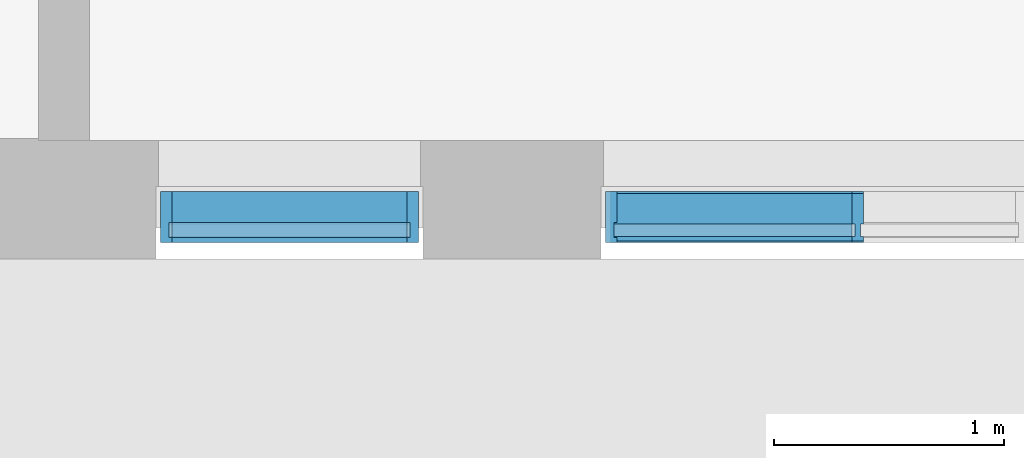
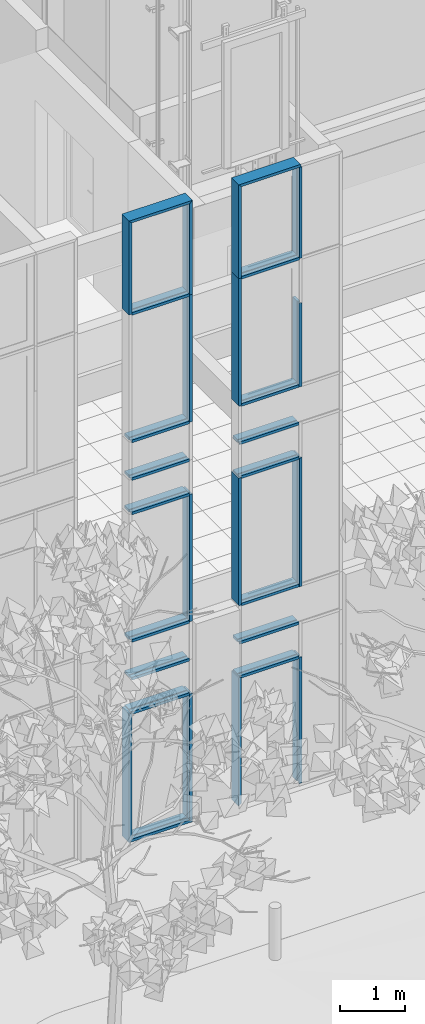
# One storey, part 2 of 246: 31 members, 2 elements without a shape of their own.
"""IFC2X3 building model written with IfcOpenShell, lengths in millimetres."""

import ifcopenshell
import ifcopenshell.guid

model = None  # the IFC model being written
_history = None  # IfcOwnerHistory: only IFC2X3 demands one
_inside = {}  # id of a spatial element -> (the spatial element, [elements in it])
_under = {}  # id of a project, library or spatial element -> (it, [spatial elements below it])
_declared = {}  # id of a project -> (the project, [libraries it declares])
_typed = {}  # id of a type object -> (the type object, [elements of that type])
_made_of = {}  # id of a material, layer set ... -> (it, [elements and type objects made of it])


def new_model(schema):
    """Start an empty IFC model of exactly this schema.

    Asked for "IFC4X3", IfcOpenShell would pick the latest addendum, in which some entities
    have other attributes; the version numbers below select the first issue.
    IFC2X3 requires an IfcOwnerHistory on every rooted entity: one is made here for all.
    """
    global model, _history
    if schema == "IFC4X3":
        model = ifcopenshell.file(schema_version=(4, 3, 0, 0))
    else:
        model = ifcopenshell.file(schema=schema)
    _inside.clear()
    _under.clear()
    _declared.clear()
    _typed.clear()
    _made_of.clear()
    _history = None
    if model.schema == "IFC2X3":
        org = make("IfcOrganization", Name="unknown")
        user = make(
            "IfcPersonAndOrganization",
            ThePerson=make("IfcPerson", FamilyName="unknown"),
            TheOrganization=org,
        )
        app = make(
            "IfcApplication",
            ApplicationDeveloper=org,
            Version="unknown",
            ApplicationFullName="unknown",
            ApplicationIdentifier="unknown",
        )
        _history = make(
            "IfcOwnerHistory",
            OwningUser=user,
            OwningApplication=app,
            ChangeAction="ADDED",
            CreationDate=0,
        )
    return model


def make(cls, **values):
    """One entity of the class cls with the attributes given. An attribute that is None is left unset."""
    return model.create_entity(
        cls, **{name: value for name, value in values.items() if value is not None}
    )


def entity(cls, *values):
    """Any entity or typed value of the class cls, its attributes in the order of the schema. None: left unset."""
    e = model.create_entity(cls)
    for i, value in enumerate(values):
        if value is not None:
            e[i] = value
    return e


def rooted(cls, **values):
    """An entity with a GlobalId (a new one), such as an element, a storey or a relation."""
    return make(cls, GlobalId=ifcopenshell.guid.new(), OwnerHistory=_history, **values)


def si_unit(unit_type, name, prefix=None):
    """IfcSIUnit, for example si_unit("LENGTHUNIT", "METRE", prefix="MILLI")."""
    return make("IfcSIUnit", UnitType=unit_type, Prefix=prefix, Name=name)


def converted_unit(unit_type, name, factor, base, dimensions=None, offset=None):
    """IfcConversionBasedUnit, such as the inch: factor (a typed value) times the base unit."""
    return make(
        "IfcConversionBasedUnit"
        if offset is None
        else "IfcConversionBasedUnitWithOffset",
        ConversionOffset=offset,
        Dimensions=None
        if dimensions is None
        else entity("IfcDimensionalExponents", *dimensions),
        UnitType=unit_type,
        Name=name,
        ConversionFactor=make(
            "IfcMeasureWithUnit", ValueComponent=factor, UnitComponent=base
        ),
    )


def derived_unit(unit_type, elements):
    """IfcDerivedUnit: a product of units, each with its exponent."""
    return make(
        "IfcDerivedUnit",
        Elements=[
            make("IfcDerivedUnitElement", Unit=unit, Exponent=power)
            for unit, power in elements
        ],
        UnitType=unit_type,
    )


def money_unit(currency):
    """IfcMonetaryUnit."""
    return make("IfcMonetaryUnit", Currency=currency)


def assignment(units):
    """IfcUnitAssignment: the units of a project."""
    return None if units is None else make("IfcUnitAssignment", Units=units)


def point(xyz):
    """IfcCartesianPoint."""
    return None if xyz is None else make("IfcCartesianPoint", Coordinates=xyz)


def direction(xyz):
    """IfcDirection."""
    return None if xyz is None else make("IfcDirection", DirectionRatios=xyz)


def frame(location, z_axis=None, x_axis=None):
    """IfcAxis2Placement3D, a coordinate frame: its origin and axes. An axis left out is left unset."""
    return make(
        "IfcAxis2Placement3D",
        Location=point(location),
        Axis=direction(z_axis),
        RefDirection=direction(x_axis),
    )


def origin_with_axes():
    """The frame at (0, 0, 0) with the z axis (0, 0, 1) and the x axis (1, 0, 0) written out."""
    return frame((0.0, 0.0, 0.0), z_axis=(0.0, 0.0, 1.0), x_axis=(1.0, 0.0, 0.0))


def place(relative_to, where):
    """IfcLocalPlacement: puts the frame where relative to a parent placement (None: the world)."""
    return make(
        "IfcLocalPlacement", PlacementRelTo=relative_to, RelativePlacement=where
    )


def context(
    kind, dimensions, precision=None, world=None, true_north=None, identifier=None
):
    """IfcGeometricRepresentationContext, for example the 3D "Model" context."""
    return make(
        "IfcGeometricRepresentationContext",
        ContextIdentifier=identifier,
        ContextType=kind,
        CoordinateSpaceDimension=dimensions,
        Precision=precision,
        WorldCoordinateSystem=world,
        TrueNorth=true_north,
    )


def subcontext(parent, identifier, kind, view, scale=None):
    """IfcGeometricRepresentationSubContext, for example "Body" below "Model"."""
    return make(
        "IfcGeometricRepresentationSubContext",
        ContextIdentifier=identifier,
        ContextType=kind,
        ParentContext=parent,
        TargetScale=scale,
        TargetView=view,
    )


def project(units=None, contexts=None):
    """IfcProject with its units and contexts."""
    return rooted(
        "IfcProject",
        Name="project",
        RepresentationContexts=contexts,
        UnitsInContext=assignment(units),
    )


def spatial(cls, under=None, at=None, **own):
    """A site, building, storey or space (cls), placed at a placement, below another one or the project."""
    s = rooted(cls, ObjectPlacement=at, **own)
    if under is not None:
        _under.setdefault(under.id(), (under, []))[1].append(s)
    return s


def faces_of(points, faces, orient=None, outer=None):
    """IfcFace entities. A face is a list of loops; a loop is a list of indices into points, from 0.

    orient and outer hold one flag for each loop. By default every Orientation is true, the
    first loop of a face is its IfcFaceOuterBound and the others are IfcFaceBound.
    """
    made = []
    for i, loops in enumerate(faces):
        bounds = []
        for j, loop in enumerate(loops):
            is_outer = j == 0 if outer is None else outer[i][j]
            bounds.append(
                make(
                    "IfcFaceOuterBound" if is_outer else "IfcFaceBound",
                    Bound=make("IfcPolyLoop", Polygon=[points[k] for k in loop]),
                    Orientation=True if orient is None else orient[i][j],
                )
            )
        made.append(make("IfcFace", Bounds=bounds))
    return made


def faceted_brep(points, faces, orient=None, outer=None, voids=None):
    """IfcFacetedBrep: a solid bounded by flat faces; with voids (closed shells), ...WithVoids."""
    shared = [point(p) for p in points]
    hull = make("IfcClosedShell", CfsFaces=faces_of(shared, faces, orient, outer))
    if voids is None:
        return make("IfcFacetedBrep", Outer=hull)
    return make(
        "IfcFacetedBrepWithVoids",
        Outer=hull,
        Voids=[
            make(cls, CfsFaces=faces_of(shared, fs, o, b)) for cls, fs, o, b in voids
        ],
    )


def shape(context_of_items, identifier, shape_type, items):
    """IfcShapeRepresentation: the items that make up one representation, for example the "Body"."""
    return make(
        "IfcShapeRepresentation",
        ContextOfItems=context_of_items,
        RepresentationIdentifier=identifier,
        RepresentationType=shape_type,
        Items=items,
    )


def source(mapping_origin, context_of_items, identifier, shape_type, items):
    """IfcRepresentationMap: a shape defined once, which mapped items show again and again."""
    return make(
        "IfcRepresentationMap",
        MappingOrigin=mapping_origin,
        MappedRepresentation=shape(context_of_items, identifier, shape_type, items),
    )


def transform(
    local_origin,
    x_axis=None,
    y_axis=None,
    z_axis=None,
    scale=None,
    scale2=None,
    scale3=None,
    uniform=True,
):
    """IfcCartesianTransformationOperator3D, or its non-uniform kind. x_axis, y_axis, z_axis: its Axis1, 2, 3."""
    if uniform:
        return make(
            "IfcCartesianTransformationOperator3D",
            Axis1=direction(x_axis),
            Axis2=direction(y_axis),
            LocalOrigin=point(local_origin),
            Scale=scale,
            Axis3=direction(z_axis),
        )
    return make(
        "IfcCartesianTransformationOperator3DnonUniform",
        Axis1=direction(x_axis),
        Axis2=direction(y_axis),
        LocalOrigin=point(local_origin),
        Scale=scale,
        Axis3=direction(z_axis),
        Scale2=scale2,
        Scale3=scale3,
    )


def mapped(mapping_source, mapping_target):
    """IfcMappedItem: shows the shape of a source again, moved by a transform."""
    return make(
        "IfcMappedItem", MappingSource=mapping_source, MappingTarget=mapping_target
    )


def material(Name=None, Category=None):
    """IfcMaterial."""
    return make("IfcMaterial", Name=Name, Category=Category)


def made_of(thing, what):
    """Note that an element or type object is made of a material, layer set ...; save() writes the relation."""
    if what is not None:
        _made_of.setdefault(what.id(), (what, []))[1].append(thing)
    return thing


def type_object(cls, material=None, **own):
    """A type object (cls), such as IfcWallType, which elements share."""
    return made_of(rooted(cls, **own), material)


def element(
    cls,
    number,
    at=None,
    inside=None,
    cuts=None,
    type_object=None,
    material=None,
    context=None,
    identifier="Body",
    shape_type=None,
    held_by="IfcProductDefinitionShape",
    body=None,
    shapes=None,
    **own,
):
    """One element of the class cls, such as IfcWall. Its Tag is "e" and its number.

    at: its placement. inside: the storey or other place that contains it. cuts: it is an
    opening in that element (IfcRelVoidsElement). A single representation is given by context,
    identifier, shape_type and body (its items); several are given by shapes. held_by: the class
    of the entity that holds the representations. save() writes the other relations.
    """
    e = rooted(cls, Tag="e%d" % number, ObjectPlacement=at, **own)
    if body is not None:
        shapes = [shape(context, identifier, shape_type, body)]
    if shapes is not None:
        e.Representation = make(held_by, Representations=shapes)
    if inside is not None:
        _inside.setdefault(inside.id(), (inside, []))[1].append(e)
    if cuts is not None:
        rooted(
            "IfcRelVoidsElement", RelatingBuildingElement=cuts, RelatedOpeningElement=e
        )
    if type_object is not None:
        _typed.setdefault(type_object.id(), (type_object, []))[1].append(e)
    return made_of(e, material)


def aggregate(whole, parts):
    """IfcRelAggregates: a whole, such as a stair, and the parts it consists of."""
    return rooted("IfcRelAggregates", RelatingObject=whole, RelatedObjects=parts)


def save(model, path):
    """Write the relations noted so far, then the file.

    IfcRelAggregates (storeys below a building ...), IfcRelContainedInSpatialStructure (elements
    in a storey), IfcRelDefinesByType, IfcRelAssociatesMaterial and IfcRelDeclares: one each for
    every whole, place, type object, material and project.
    """
    for whole, parts in _under.values():
        aggregate(whole, parts)
    for where, things in _inside.values():
        rooted(
            "IfcRelContainedInSpatialStructure",
            RelatedElements=things,
            RelatingStructure=where,
        )
    for kind, things in _typed.values():
        rooted("IfcRelDefinesByType", RelatedObjects=things, RelatingType=kind)
    for what, things in _made_of.values():
        rooted("IfcRelAssociatesMaterial", RelatedObjects=things, RelatingMaterial=what)
    for by, libraries in _declared.values():
        rooted("IfcRelDeclares", RelatingContext=by, RelatedDefinitions=libraries)
    model.write(path)


model = new_model("IFC2X3")

# Units and contexts
model_context = context("Model", 3, precision=0.01, world=origin_with_axes(), true_north=direction((0.0, 1.0)))
body_context = subcontext(model_context, "Body", "Model", "MODEL_VIEW")
ifc_project = project(units=[si_unit("LENGTHUNIT", "METRE", prefix="MILLI"), si_unit("AREAUNIT", "SQUARE_METRE"), si_unit("VOLUMEUNIT", "CUBIC_METRE"), converted_unit("PLANEANGLEUNIT", "DEGREE", entity("IfcPlaneAngleMeasure", 0.0174532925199), si_unit("PLANEANGLEUNIT", "RADIAN"), dimensions=[0, 0, 0, 0, 0, 0, 0]), si_unit("SOLIDANGLEUNIT", "STERADIAN"), money_unit("EUR"), converted_unit("TIMEUNIT", "Year", entity("IfcTimeMeasure", 31556926.0), si_unit("TIMEUNIT", "SECOND"), dimensions=[0, 0, 1, 0, 0, 0, 0]), si_unit("MASSUNIT", "GRAM", prefix="KILO"), si_unit("THERMODYNAMICTEMPERATUREUNIT", "DEGREE_CELSIUS"), si_unit("LUMINOUSINTENSITYUNIT", "LUMEN"), si_unit("ENERGYUNIT", "JOULE", prefix="MEGA"), derived_unit("THERMALCONDUCTANCEUNIT", [(si_unit("POWERUNIT", "WATT"), 1), (si_unit("LENGTHUNIT", "METRE"), -1), (si_unit("THERMODYNAMICTEMPERATUREUNIT", "KELVIN"), -1)]), derived_unit("SPECIFICHEATCAPACITYUNIT", [(si_unit("ENERGYUNIT", "JOULE"), 1), (si_unit("MASSUNIT", "GRAM", prefix="KILO"), -1), (si_unit("THERMODYNAMICTEMPERATUREUNIT", "KELVIN"), -1)]), derived_unit("MASSDENSITYUNIT", [(si_unit("MASSUNIT", "GRAM", prefix="KILO"), 1), (si_unit("VOLUMEUNIT", "CUBIC_METRE"), -1)])], contexts=[model_context])

# Site, building, storey
site_placement = place(None, origin_with_axes())
site = spatial("IfcSite", under=ifc_project, at=site_placement, Name="L.Koidula tn 11b", CompositionType="ELEMENT")
building_placement = place(site_placement, origin_with_axes())
building = spatial("IfcBuilding", under=site, at=building_placement, Name="Rakvere Riigigümnaasium", CompositionType="ELEMENT")
storey_placement = place(building_placement, origin_with_axes())
storey = spatial("IfcBuildingStorey", under=building, at=storey_placement, Name="1.korrus 0,00", CompositionType="ELEMENT", Elevation=0.0)

# Curtain wall, members
curtain_wall_type = type_object("IfcCurtainWallType", Name="Curtain Wall Type", PredefinedType="NOTDEFINED")
curtain_wall_1_placement = place(storey_placement, frame((40619.71659, 5111.45334637, -1.61944636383e-05), z_axis=(0.0, 0.0, 1.0), x_axis=(1.0, 0.0, 0.0)))
curtain_wall_1 = element("IfcCurtainWall", 1, at=curtain_wall_1_placement, inside=storey, type_object=curtain_wall_type, Name="KLF-05-1D")
ifc_material = material(Name="Alumiiniumprofiil (RAL 7021)")
member_type_1 = type_object("IfcMemberType", Name="Boundary Frame 50 x 222", PredefinedType="MULLION")
shared_shape_1 = source(origin_with_axes(), body_context, "Body", "Brep", [
    faceted_brep([(37.0, -32.5, 2375.00000025), (37.0, 32.5, 2375.00000025), (50.0, 32.5, 2375.00000025), (50.0, 53.0, 2375.00000025), (0.0, 53.0, 2375.00000025), (0.0, -169.0, 2375.00000025), (50.0, -169.0, 2375.00000025), (50.0, -32.5, 2375.00000025), (37.0, -32.5, -2.4712543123e-07), (37.0, 32.5, -2.4712543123e-07), (50.0, 32.5, -2.47125653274e-07), (50.0, 53.0, -2.47125653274e-07), (0.0, 53.0, -2.47125653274e-07), (0.0, -169.0, -2.47125653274e-07), (50.0, -169.0, -2.47125653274e-07), (50.0, -32.5, -2.47125653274e-07)], [[[0, 1, 2, 3, 4, 5, 6, 7]], [[1, 0, 8, 9]], [[10, 2, 1, 9]], [[2, 10, 11, 3]], [[12, 4, 3, 11]], [[13, 5, 4, 12]], [[14, 6, 5, 13]], [[15, 7, 6, 14]], [[0, 7, 15, 8]], [[8, 15, 14, 13, 12, 11, 10, 9]]]),
])
member_1_placement = place(curtain_wall_1_placement, frame((560.000157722, 0.0, 7465.0), z_axis=(3.53617792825e-08, 0.0, 1.0), x_axis=(-1.0, 0.0, 3.53617792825e-08)))
member_1 = element("IfcMember", 2, at=member_1_placement, type_object=member_type_1, material=ifc_material, Name="KLF-05-4C-Profiilid", ObjectType="MULLION", context=body_context, shape_type="MappedRepresentation", body=[
    mapped(shared_shape_1, transform((0.0, 0.0, 0.0))),
])
member_2_placement = place(curtain_wall_1_placement, frame((560.000157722, 0.0, 3745.0), z_axis=(0.0, 0.0, 1.0), x_axis=(-1.0, 0.0, 0.0)))
member_2 = element("IfcMember", 3, at=member_2_placement, type_object=member_type_1, material=ifc_material, Name="KLF-05-1C-Profiilid", ObjectType="MULLION", context=body_context, shape_type="MappedRepresentation", body=[
    mapped(shared_shape_1, transform((0.0, 0.0, 0.0))),
])

curtain_wall_2_placement = place(storey_placement, frame((42948.5002114, 5111.45334637, -8.09717250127e-06), z_axis=(0.0, 0.0, 1.0), x_axis=(1.0, 0.0, 0.0)))
curtain_wall_2 = element("IfcCurtainWall", 4, at=curtain_wall_2_placement, inside=storey, type_object=curtain_wall_type, Name="KLF-05-2A")
shared_shape_2 = source(origin_with_axes(), body_context, "Body", "Brep", [
    faceted_brep([(-37.0, -32.5, 2375.0), (-50.0, -32.5, 2375.0), (-50.0, -169.0, 2375.0), (0.0, -169.0, 2375.0), (0.0, 53.0, 2375.0), (-50.0, 53.0, 2375.0), (-50.0, 32.5, 2375.0), (-37.0, 32.5, 2375.0), (-37.0, -32.5, 0.0), (-50.0, -32.5, 0.0), (-50.0, -169.0, 0.0), (0.0, -169.0, 0.0), (0.0, 53.0, 0.0), (-50.0, 53.0, 0.0), (-50.0, 32.5, 0.0), (-37.0, 32.5, 0.0)], [[[0, 1, 2, 3, 4, 5, 6, 7]], [[0, 8, 9, 1]], [[9, 10, 2, 1]], [[10, 11, 3, 2]], [[11, 12, 4, 3]], [[12, 13, 5, 4]], [[6, 5, 13, 14]], [[14, 15, 7, 6]], [[7, 15, 8, 0]], [[8, 15, 14, 13, 12, 11, 10, 9]]]),
])
member_3_placement = place(curtain_wall_2_placement, frame((-954.000087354, 0.0, 3745.0), z_axis=(0.0, 0.0, 1.0), x_axis=(-1.0, 0.0, 0.0)))
member_3 = element("IfcMember", 5, at=member_3_placement, type_object=member_type_1, material=ifc_material, Name="KLF-05-6A-Profiilid", ObjectType="MULLION", context=body_context, shape_type="MappedRepresentation", body=[
    mapped(shared_shape_2, transform((0.0, 0.0, 0.0))),
])
member_4_placement = place(curtain_wall_2_placement, frame((-954.000087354, 0.0, 7465.0), z_axis=(0.0, 0.0, 1.0), x_axis=(-1.0, 0.0, 0.0)))
member_4 = element("IfcMember", 6, at=member_4_placement, type_object=member_type_1, material=ifc_material, Name="KLF-05-3A-Profiilid", ObjectType="MULLION", context=body_context, shape_type="MappedRepresentation", body=[
    mapped(shared_shape_2, transform((0.0, 0.0, 0.0))),
])
member_type_2 = type_object("IfcMemberType", Name="50 x 208", PredefinedType="MULLION")
shared_shape_3 = source(origin_with_axes(), body_context, "Body", "Brep", [
    faceted_brep([(-12.0, -27.0, 1050.00011426), (-25.0, -27.0, 1050.00011426), (-25.0, -160.0, 1050.00011426), (25.0, -160.0, 1050.00011426), (25.0, -27.0, 1050.00011426), (12.0, -27.0, 1050.00011426), (12.0, 27.0, 1050.00011426), (25.0, 27.0, 1050.00011426), (25.0, 48.0, 1050.00011426), (-25.0, 48.0, 1050.00011426), (-25.0, 27.0, 1050.00011426), (-12.0, 27.0, 1050.00011426), (-12.0, -27.0, 0.0), (-25.0, -27.0, 0.0), (-25.0, -160.0, 0.0), (25.0, -160.0, 0.0), (25.0, -27.0, 0.0), (12.0, -27.0, 0.0), (12.0, 27.0, 0.0), (25.0, 27.0, 0.0), (25.0, 48.0, 0.0), (-25.0, 48.0, 0.0), (-25.0, 27.0, 0.0), (-12.0, 27.0, 0.0)], [[[0, 1, 2, 3, 4, 5, 6, 7, 8, 9, 10, 11]], [[1, 0, 12, 13]], [[1, 13, 14, 2]], [[3, 2, 14, 15]], [[4, 3, 15, 16]], [[4, 16, 17, 5]], [[5, 17, 18, 6]], [[7, 6, 18, 19]], [[19, 20, 8, 7]], [[9, 8, 20, 21]], [[22, 10, 9, 21]], [[11, 10, 22, 23]], [[0, 11, 23, 12]], [[23, 22, 21, 20, 19, 18, 17, 16, 15, 14, 13, 12]]]),
])
member_5_placement = place(curtain_wall_2_placement, frame((-934.000201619, 0.0, 2400.0), z_axis=(1.0, 0.0, 0.0), x_axis=(0.0, 0.0, 1.0)))
member_5 = element("IfcMember", 7, at=member_5_placement, type_object=member_type_2, material=ifc_material, Name="KLF-40", ObjectType="MULLION", context=body_context, shape_type="MappedRepresentation", body=[
    mapped(shared_shape_3, transform((0.0, 0.0, 0.0))),
])
member_6_placement = place(curtain_wall_2_placement, frame((-934.000201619, 0.0, 3040.0), z_axis=(1.0, 0.0, 0.0), x_axis=(0.0, 0.0, 1.0)))
member_6 = element("IfcMember", 8, at=member_6_placement, type_object=member_type_2, material=ifc_material, Name="KLF-82", ObjectType="MULLION", context=body_context, shape_type="MappedRepresentation", body=[
    mapped(shared_shape_3, transform((0.0, 0.0, 0.0))),
])
member_7_placement = place(curtain_wall_2_placement, frame((-934.000201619, 0.0, 3745.0), z_axis=(1.0, 0.0, 0.0), x_axis=(0.0, 0.0, 1.0)))
member_7 = element("IfcMember", 9, at=member_7_placement, type_object=member_type_2, material=ifc_material, Name="KLF-84", ObjectType="MULLION", context=body_context, shape_type="MappedRepresentation", body=[
    mapped(shared_shape_3, transform((0.0, 0.0, 0.0))),
])
member_8_placement = place(curtain_wall_2_placement, frame((-934.000201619, 0.0, 6120.0), z_axis=(1.0, 0.0, 0.0), x_axis=(0.0, 0.0, 1.0)))
member_8 = element("IfcMember", 10, at=member_8_placement, type_object=member_type_2, material=ifc_material, Name="KLF-15", ObjectType="MULLION", context=body_context, shape_type="MappedRepresentation", body=[
    mapped(shared_shape_3, transform((0.0, 0.0, 0.0))),
])
member_9_placement = place(curtain_wall_2_placement, frame((-934.000201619, 0.0, 6760.0), z_axis=(1.0, 0.0, 0.0), x_axis=(0.0, 0.0, 1.0)))
member_9 = element("IfcMember", 11, at=member_9_placement, type_object=member_type_2, material=ifc_material, Name="KLF-17", ObjectType="MULLION", context=body_context, shape_type="MappedRepresentation", body=[
    mapped(shared_shape_3, transform((0.0, 0.0, 0.0))),
])
member_10_placement = place(curtain_wall_2_placement, frame((-934.000201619, 0.0, 7465.0), z_axis=(1.0, 0.0, 0.0), x_axis=(0.0, 0.0, 1.0)))
member_10 = element("IfcMember", 12, at=member_10_placement, type_object=member_type_2, material=ifc_material, Name="KLF-50", ObjectType="MULLION", context=body_context, shape_type="MappedRepresentation", body=[
    mapped(shared_shape_3, transform((0.0, 0.0, 0.0))),
])

# Member
shared_shape_4 = source(origin_with_axes(), body_context, "Body", "Brep", [
    faceted_brep([(37.0, -32.5, 1712.99983191), (37.0, 32.5, 1712.99983191), (50.0, 32.5, 1699.99983191), (50.0, 53.0, 1699.99983191), (0.0, 53.0, 1749.99983191), (0.0, -169.0, 1749.99983191), (50.0, -169.0, 1699.99983191), (50.0, -32.5, 1699.99983191), (37.0, -32.5, -2.47125875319e-07), (37.0, 32.5, -2.47125875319e-07), (50.0, 32.5, -2.47125764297e-07), (50.0, 53.0, -2.47125764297e-07), (0.0, 53.0, -2.47125764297e-07), (0.0, -169.0, -2.47125764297e-07), (50.0, -169.0, -2.47125764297e-07), (50.0, -32.5, -2.47125764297e-07)], [[[0, 1, 2, 3, 4, 5, 6, 7]], [[1, 0, 8, 9]], [[10, 2, 1, 9]], [[2, 10, 11, 3]], [[12, 4, 3, 11]], [[13, 5, 4, 12]], [[14, 6, 5, 13]], [[15, 7, 6, 14]], [[0, 7, 15, 8]], [[8, 15, 14, 13, 12, 11, 10, 9]]]),
])
member_11_placement = place(curtain_wall_1_placement, frame((560.000241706, 0.0, 9840.0), z_axis=(0.0, 0.0, 1.0), x_axis=(-1.0, 0.0, 0.0)))
member_11 = element("IfcMember", 13, at=member_11_placement, type_object=member_type_1, material=ifc_material, Name="KLF-05-5C-Profiilid", ObjectType="MULLION", context=body_context, shape_type="MappedRepresentation", body=[
    mapped(shared_shape_4, transform((0.0, 0.0, 0.0))),
])

shared_shape_5 = source(origin_with_axes(), body_context, "Body", "Brep", [
    faceted_brep([(37.0, -32.5, 2400.0), (37.0, 32.5, 2400.0), (50.0, 32.5, 2400.0), (50.0, 53.0, 2400.0), (0.0, 53.0, 2400.0), (0.0, -169.0, 2400.0), (50.0, -169.0, 2400.0), (50.0, -32.5, 2400.0), (37.0, -32.5, 37.0), (37.0, 32.5, 37.0), (50.0, 32.5, 50.0), (50.0, 53.0, 50.0), (0.0, 53.0, 0.0), (0.0, -169.0, 0.0), (50.0, -169.0, 50.0), (50.0, -32.5, 50.0)], [[[0, 1, 2, 3, 4, 5, 6, 7]], [[1, 0, 8, 9]], [[10, 2, 1, 9]], [[2, 10, 11, 3]], [[4, 3, 11, 12]], [[5, 4, 12, 13]], [[6, 5, 13, 14]], [[15, 7, 6, 14]], [[0, 7, 15, 8]], [[8, 15, 14, 13, 12, 11, 10, 9]]]),
])
member_12_placement = place(curtain_wall_1_placement, frame((560.000157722, 0.0, 0.0), z_axis=(0.0, 0.0, 1.0), x_axis=(-1.0, 0.0, 0.0)))
member_12 = element("IfcMember", 14, at=member_12_placement, type_object=member_type_1, material=ifc_material, Name="KLF-05-8C-Profiilid", ObjectType="MULLION", context=body_context, shape_type="MappedRepresentation", body=[
    mapped(shared_shape_5, transform((0.0, 0.0, 0.0))),
])

member_type_3 = type_object("IfcMemberType", Name="Mullion Frame 50 x 222", PredefinedType="MULLION")
shared_shape_6 = source(origin_with_axes(), body_context, "Body", "Brep", [
    faceted_brep([(-12.0, -32.5, 1699.99983191), (-25.0, -32.5, 1699.99983191), (-25.0, -169.0, 1699.99983191), (25.0, -169.0, 1699.99983191), (25.0, -32.5, 1699.99983191), (12.0, -32.5, 1699.99983191), (12.0, 32.5, 1699.99983191), (25.0, 32.5, 1699.99983191), (25.0, 53.0, 1699.99983191), (-25.0, 53.0, 1699.99983191), (-25.0, 32.5, 1699.99983191), (-12.0, 32.5, 1699.99983191), (-12.0, -32.5, 0.0), (-25.0, -32.5, 0.0), (-25.0, -169.0, 0.0), (25.0, -169.0, 0.0), (25.0, -32.5, 0.0), (12.0, -32.5, 0.0), (12.0, 32.5, 0.0), (25.0, 32.5, 0.0), (25.0, 53.0, 0.0), (-25.0, 53.0, 0.0), (-25.0, 32.5, 0.0), (-12.0, 32.5, 0.0)], [[[0, 1, 2, 3, 4, 5, 6, 7, 8, 9, 10, 11]], [[1, 0, 12, 13]], [[1, 13, 14, 2]], [[3, 2, 14, 15]], [[4, 3, 15, 16]], [[4, 16, 17, 5]], [[5, 17, 18, 6]], [[7, 6, 18, 19]], [[19, 20, 8, 7]], [[9, 8, 20, 21]], [[22, 10, 9, 21]], [[11, 10, 22, 23]], [[0, 11, 23, 12]], [[23, 22, 21, 20, 19, 18, 17, 16, 15, 14, 13, 12]]]),
])
member_13_placement = place(curtain_wall_2_placement, frame((140.999912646, 0.0, 9840.0), z_axis=(0.0, 0.0, 1.0), x_axis=(-1.0, 0.0, 0.0)))
member_13 = element("IfcMember", 15, at=member_13_placement, type_object=member_type_3, material=ifc_material, Name="KLF-05-2A-Profiilid", ObjectType="MULLION", context=body_context, shape_type="MappedRepresentation", body=[
    mapped(shared_shape_6, transform((0.0, 0.0, 0.0))),
])

shared_shape_7 = source(origin_with_axes(), body_context, "Body", "Brep", [
    faceted_brep([(-37.0, -32.5, 2400.0), (-50.0, -32.5, 2400.0), (-50.0, -169.0, 2400.0), (0.0, -169.0, 2400.0), (0.0, 53.0, 2400.0), (-50.0, 53.0, 2400.0), (-50.0, 32.5, 2400.0), (-37.0, 32.5, 2400.0), (-37.0, -32.5, 37.0), (-50.0, -32.5, 50.0), (-50.0, -169.0, 50.0), (0.0, -169.0, 0.0), (0.0, 53.0, 0.0), (-50.0, 53.0, 50.0), (-50.0, 32.5, 50.0), (-37.0, 32.5, 37.0)], [[[0, 1, 2, 3, 4, 5, 6, 7]], [[0, 8, 9, 1]], [[9, 10, 2, 1]], [[2, 10, 11, 3]], [[3, 11, 12, 4]], [[4, 12, 13, 5]], [[6, 5, 13, 14]], [[14, 15, 7, 6]], [[7, 15, 8, 0]], [[8, 15, 14, 13, 12, 11, 10, 9]]]),
])
member_14_placement = place(curtain_wall_2_placement, frame((-954.000087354, 0.0, 0.0), z_axis=(0.0, 0.0, 1.0), x_axis=(-1.0, 0.0, 0.0)))
member_14 = element("IfcMember", 16, at=member_14_placement, type_object=member_type_1, material=ifc_material, Name="KLF-05-9A-Profiilid", ObjectType="MULLION", context=body_context, shape_type="MappedRepresentation", body=[
    mapped(shared_shape_7, transform((0.0, 0.0, 0.0))),
])

shared_shape_8 = source(origin_with_axes(), body_context, "Body", "Brep", [
    faceted_brep([(-37.0, -32.5, 1712.99983191), (-50.0, -32.5, 1699.99983191), (-50.0, -169.0, 1699.99983191), (0.0, -169.0, 1749.99983191), (0.0, 53.0, 1749.99983191), (-50.0, 53.0, 1699.99983191), (-50.0, 32.5, 1699.99983191), (-37.0, 32.5, 1712.99983191), (-37.0, -32.5, 0.0), (-50.0, -32.5, 0.0), (-50.0, -169.0, 0.0), (0.0, -169.0, 0.0), (0.0, 53.0, 0.0), (-50.0, 53.0, 0.0), (-50.0, 32.5, 0.0), (-37.0, 32.5, 0.0)], [[[0, 1, 2, 3, 4, 5, 6, 7]], [[0, 8, 9, 1]], [[9, 10, 2, 1]], [[10, 11, 3, 2]], [[11, 12, 4, 3]], [[12, 13, 5, 4]], [[6, 5, 13, 14]], [[14, 15, 7, 6]], [[7, 15, 8, 0]], [[8, 15, 14, 13, 12, 11, 10, 9]]]),
])
member_15_placement = place(curtain_wall_2_placement, frame((-954.000087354, 0.0, 9840.0), z_axis=(0.0, 0.0, 1.0), x_axis=(-1.0, 0.0, 0.0)))
member_15 = element("IfcMember", 17, at=member_15_placement, type_object=member_type_1, material=ifc_material, Name="KLF-05-2A-Profiilid", ObjectType="MULLION", context=body_context, shape_type="MappedRepresentation", body=[
    mapped(shared_shape_8, transform((0.0, 0.0, 0.0))),
])

member_type_4 = type_object("IfcMemberType", Name="Transom Frame 50 x 222", PredefinedType="MULLION")
shared_shape_9 = source(origin_with_axes(), body_context, "Body", "Brep", [
    faceted_brep([(-12.0, -32.5, 1070.00039943), (-25.0, -32.5, 1070.00039943), (-25.0, -169.0, 1070.00039943), (25.0, -169.0, 1070.00039943), (25.0, -32.5, 1070.00039943), (12.0, -32.5, 1070.00039943), (12.0, 32.5, 1070.00039943), (25.0, 32.5, 1070.00039943), (25.0, 53.0, 1070.00039943), (-25.0, 53.0, 1070.00039943), (-25.0, 32.5, 1070.00039943), (-12.0, 32.5, 1070.00039943), (-12.0, -32.5, 50.0000015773), (-25.0, -32.5, 50.0000015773), (-25.0, -169.0, 50.0000082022), (25.0, -169.0, 50.0000082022), (25.0, -32.5, 50.0000015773), (12.0, -32.5, 50.0000015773), (12.0, 32.5, 49.9999984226), (25.0, 32.5, 49.9999984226), (25.0, 53.0, 49.9999974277), (-25.0, 53.0, 49.9999974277), (-25.0, 32.5, 49.9999984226), (-12.0, 32.5, 49.9999984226)], [[[0, 1, 2, 3, 4, 5, 6, 7, 8, 9, 10, 11]], [[1, 0, 12, 13]], [[1, 13, 14, 2]], [[2, 14, 15, 3]], [[4, 3, 15, 16]], [[4, 16, 17, 5]], [[5, 17, 18, 6]], [[7, 6, 18, 19]], [[19, 20, 8, 7]], [[8, 20, 21, 9]], [[22, 10, 9, 21]], [[11, 10, 22, 23]], [[0, 11, 23, 12]], [[23, 22, 21, 20, 19, 18, 17, 16, 15, 14, 13, 12]]]),
])
member_16_placement = place(curtain_wall_1_placement, frame((-560.000157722, 0.0, 9840.0), z_axis=(1.0, 0.0, 0.0), x_axis=(0.0, 0.0, 1.0)))
member_16 = element("IfcMember", 18, at=member_16_placement, type_object=member_type_4, material=ifc_material, Name="KLF-05-1C-Profiilid", ObjectType="MULLION", context=body_context, shape_type="MappedRepresentation", body=[
    mapped(shared_shape_9, transform((0.0, 0.0, 0.0))),
])

member_17_placement = place(curtain_wall_1_placement, frame((-560.000157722, 0.0, 7465.0), z_axis=(1.0, 0.0, 0.0), x_axis=(0.0, 0.0, 1.0)))
member_17 = element("IfcMember", 19, at=member_17_placement, type_object=member_type_4, material=ifc_material, Name="KLF-05-2C-Profiilid", ObjectType="MULLION", context=body_context, shape_type="MappedRepresentation", body=[
    mapped(shared_shape_9, transform((0.0, 0.0, 0.0))),
])

member_18_placement = place(curtain_wall_1_placement, frame((-560.000157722, 0.0, 6760.0), z_axis=(1.0, 0.0, 0.0), x_axis=(0.0, 0.0, 1.0)))
member_18 = element("IfcMember", 20, at=member_18_placement, type_object=member_type_4, material=ifc_material, Name="KLF-05-3C-Profiilid", ObjectType="MULLION", context=body_context, shape_type="MappedRepresentation", body=[
    mapped(shared_shape_9, transform((0.0, 0.0, 0.0))),
])

member_19_placement = place(curtain_wall_1_placement, frame((-560.000157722, 0.0, 6120.0), z_axis=(1.0, 0.0, 0.0), x_axis=(0.0, 0.0, 1.0)))
member_19 = element("IfcMember", 21, at=member_19_placement, type_object=member_type_4, material=ifc_material, Name="KLF-05-4C-Profiilid", ObjectType="MULLION", context=body_context, shape_type="MappedRepresentation", body=[
    mapped(shared_shape_9, transform((0.0, 0.0, 0.0))),
])

member_20_placement = place(curtain_wall_1_placement, frame((-560.000157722, 0.0, 3745.0), z_axis=(1.0, 0.0, 0.0), x_axis=(0.0, 0.0, 1.0)))
member_20 = element("IfcMember", 22, at=member_20_placement, type_object=member_type_4, material=ifc_material, Name="KLF-05-3C-Profiilid", ObjectType="MULLION", context=body_context, shape_type="MappedRepresentation", body=[
    mapped(shared_shape_9, transform((0.0, 0.0, 0.0))),
])

member_21_placement = place(curtain_wall_1_placement, frame((-560.000157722, 0.0, 3040.0), z_axis=(1.0, 0.0, 0.0), x_axis=(0.0, 0.0, 1.0)))
member_21 = element("IfcMember", 23, at=member_21_placement, type_object=member_type_4, material=ifc_material, Name="KLF-05-4C-Profiilid", ObjectType="MULLION", context=body_context, shape_type="MappedRepresentation", body=[
    mapped(shared_shape_9, transform((0.0, 0.0, 0.0))),
])

member_22_placement = place(curtain_wall_1_placement, frame((-560.000157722, 0.0, 2400.0), z_axis=(1.0, 0.0, 0.0), x_axis=(0.0, 0.0, 1.0)))
member_22 = element("IfcMember", 24, at=member_22_placement, type_object=member_type_4, material=ifc_material, Name="KLF-05-5C-Profiilid", ObjectType="MULLION", context=body_context, shape_type="MappedRepresentation", body=[
    mapped(shared_shape_9, transform((0.0, 0.0, 0.0))),
])

shared_shape_10 = source(origin_with_axes(), body_context, "Body", "Brep", [
    faceted_brep([(-12.0, -27.0, 2400.00026018), (-25.0, -27.0, 2400.00026018), (-25.0, -160.0, 2400.00026018), (25.0, -160.0, 2400.00026018), (25.0, -27.0, 2400.00026018), (12.0, -27.0, 2400.00026018), (12.0, 27.0, 2400.00026018), (25.0, 27.0, 2400.00026018), (25.0, 48.0, 2400.00026018), (-25.0, 48.0, 2400.00026018), (-25.0, 27.0, 2400.00026018), (-12.0, 27.0, 2400.00026018), (-12.0, -27.0, 50.0), (-25.0, -27.0, 50.0), (-25.0, -160.0, 50.0), (25.0, -160.0, 50.0), (25.0, -27.0, 50.0), (12.0, -27.0, 50.0), (12.0, 27.0, 50.0), (25.0, 27.0, 50.0), (25.0, 48.0, 50.0), (-25.0, 48.0, 50.0), (-25.0, 27.0, 50.0), (-12.0, 27.0, 50.0)], [[[0, 1, 2, 3, 4, 5, 6, 7, 8, 9, 10, 11]], [[1, 0, 12, 13]], [[1, 13, 14, 2]], [[2, 14, 15, 3]], [[4, 3, 15, 16]], [[4, 16, 17, 5]], [[5, 17, 18, 6]], [[7, 6, 18, 19]], [[19, 20, 8, 7]], [[8, 20, 21, 9]], [[22, 10, 9, 21]], [[11, 10, 22, 23]], [[0, 11, 23, 12]], [[23, 22, 21, 20, 19, 18, 17, 16, 15, 14, 13, 12]]]),
])
member_23_placement = place(curtain_wall_2_placement, frame((140.999912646, 0.0, 0.0), z_axis=(0.0, 0.0, 1.0), x_axis=(-1.0, 0.0, 0.0)))
member_23 = element("IfcMember", 25, at=member_23_placement, type_object=member_type_2, material=ifc_material, Name="KLF-24", ObjectType="MULLION", context=body_context, shape_type="MappedRepresentation", body=[
    mapped(shared_shape_10, transform((0.0, 0.0, 0.0))),
])

shared_shape_11 = source(origin_with_axes(), body_context, "Body", "Brep", [
    faceted_brep([(-12.0, -27.0, 1535.0), (-25.0, -27.0, 1535.0), (-25.0, -160.0, 1535.0), (25.0, -160.0, 1535.0), (25.0, -27.0, 1535.0), (12.0, -27.0, 1535.0), (12.0, 27.0, 1535.0), (25.0, 27.0, 1535.0), (25.0, 48.0, 1535.0), (-25.0, 48.0, 1535.0), (-25.0, 27.0, 1535.0), (-12.0, 27.0, 1535.0), (-12.0, -27.0, -25.0), (-25.0, -27.0, -25.0), (-25.0, -160.0, -25.0), (25.0, -160.0, -25.0), (25.0, -27.0, -25.0), (12.0, -27.0, -25.0), (12.0, 27.0, -25.0), (25.0, 27.0, -25.0), (25.0, 48.0, -25.0), (-25.0, 48.0, -25.0), (-25.0, 27.0, -25.0), (-12.0, 27.0, -25.0)], [[[0, 1, 2, 3, 4, 5, 6, 7, 8, 9, 10, 11]], [[1, 0, 12, 13]], [[1, 13, 14, 2]], [[3, 2, 14, 15]], [[4, 3, 15, 16]], [[4, 16, 17, 5]], [[5, 17, 18, 6]], [[7, 6, 18, 19]], [[19, 20, 8, 7]], [[9, 8, 20, 21]], [[22, 10, 9, 21]], [[11, 10, 22, 23]], [[0, 11, 23, 12]], [[23, 22, 21, 20, 19, 18, 17, 16, 15, 14, 13, 12]]]),
])
member_24_placement = place(curtain_wall_2_placement, frame((140.999912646, 0.0, 7465.0), z_axis=(0.0, 0.0, 1.0), x_axis=(-1.0, 0.0, 0.0)))
member_24 = element("IfcMember", 26, at=member_24_placement, type_object=member_type_2, material=ifc_material, Name="KLF-25", ObjectType="MULLION", context=body_context, shape_type="MappedRepresentation", body=[
    mapped(shared_shape_11, transform((0.0, 0.0, 0.0))),
])

member_type_5 = type_object("IfcMemberType", Name="50 x 222", PredefinedType="MULLION")
shared_shape_12 = source(origin_with_axes(), body_context, "Body", "Brep", [
    faceted_brep([(-12.0, -27.0, 2375.0), (-25.0, -27.0, 2375.0), (-25.0, -169.0, 2375.0), (25.0, -169.0, 2375.0), (25.0, -27.0, 2375.0), (12.0, -27.0, 2375.0), (12.0, 27.0, 2375.0), (25.0, 27.0, 2375.0), (25.0, 53.0, 2375.0), (-25.0, 53.0, 2375.0), (-25.0, 27.0, 2375.0), (-12.0, 27.0, 2375.0), (-12.0, -27.0, -25.0), (-25.0, -27.0, -25.0), (-25.0, -169.0, -25.0), (25.0, -169.0, -25.0), (25.0, -27.0, -25.0), (12.0, -27.0, -25.0), (12.0, 27.0, -25.0), (25.0, 27.0, -25.0), (25.0, 53.0, -25.0), (-25.0, 53.0, -25.0), (-25.0, 27.0, -25.0), (-12.0, 27.0, -25.0)], [[[0, 1, 2, 3, 4, 5, 6, 7, 8, 9, 10, 11]], [[1, 0, 12, 13]], [[1, 13, 14, 2]], [[3, 2, 14, 15]], [[4, 3, 15, 16]], [[4, 16, 17, 5]], [[5, 17, 18, 6]], [[7, 6, 18, 19]], [[19, 20, 8, 7]], [[9, 8, 20, 21]], [[22, 10, 9, 21]], [[11, 10, 22, 23]], [[0, 11, 23, 12]], [[23, 22, 21, 20, 19, 18, 17, 16, 15, 14, 13, 12]]]),
])
member_25_placement = place(curtain_wall_2_placement, frame((140.999912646, 0.0, 3745.0), z_axis=(0.0, 0.0, 1.0), x_axis=(-1.0, 0.0, 0.0)))
member_25 = element("IfcMember", 27, at=member_25_placement, type_object=member_type_5, material=ifc_material, Name="KLF-67", ObjectType="MULLION", context=body_context, shape_type="MappedRepresentation", body=[
    mapped(shared_shape_12, transform((0.0, 0.0, 0.0))),
])

shared_shape_13 = source(origin_with_axes(), body_context, "Body", "Brep", [
    faceted_brep([(37.0, -32.5, 2363.0), (37.0, 32.5, 2363.0), (50.0, 32.5, 2350.0), (50.0, 53.0, 2350.0), (0.0, 53.0, 2400.0), (0.0, -169.0, 2400.0), (50.0, -169.0, 2350.0), (50.0, -32.5, 2350.0), (37.0, -32.5, 0.0), (37.0, 32.5, 0.0), (50.0, 32.5, 0.0), (50.0, 53.0, 0.0), (0.0, 53.0, 0.0), (0.0, -169.0, 0.0), (50.0, -169.0, 0.0), (50.0, -32.5, 0.0)], [[[0, 1, 2, 3, 4, 5, 6, 7]], [[1, 0, 8, 9]], [[10, 2, 1, 9]], [[2, 10, 11, 3]], [[12, 4, 3, 11]], [[13, 5, 4, 12]], [[14, 6, 5, 13]], [[15, 7, 6, 14]], [[0, 7, 15, 8]], [[8, 15, 14, 13, 12, 11, 10, 9]]]),
])
member_26_placement = place(curtain_wall_1_placement, frame((-560.000157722, 0.0, 2400.0), z_axis=(0.0, 0.0, -1.0), x_axis=(1.0, 0.0, 0.0)))
member_26 = element("IfcMember", 28, at=member_26_placement, type_object=member_type_1, material=ifc_material, Name="KLF-05-6C-Profiilid", ObjectType="MULLION", context=body_context, shape_type="MappedRepresentation", body=[
    mapped(shared_shape_13, transform((0.0, 0.0, 0.0))),
])

shared_shape_14 = source(origin_with_axes(), body_context, "Body", "Brep", [
    faceted_brep([(37.0, -32.5, 1749.99983313), (37.0, 32.5, 1749.99983313), (50.0, 32.5, 1749.99983313), (50.0, 53.0, 1749.99983313), (0.0, 53.0, 1749.99983313), (0.0, -169.0, 1749.99983313), (50.0, -169.0, 1749.99983313), (50.0, -32.5, 1749.99983313), (37.0, -32.5, 37.0000017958), (37.0, 32.5, 37.0000017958), (50.0, 32.5, 50.0000024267), (50.0, 53.0, 50.0000024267), (0.0, 53.0, 0.0), (0.0, -169.0, 0.0), (50.0, -169.0, 50.0000024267), (50.0, -32.5, 50.0000024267)], [[[0, 1, 2, 3, 4, 5, 6, 7]], [[1, 0, 8, 9]], [[10, 2, 1, 9]], [[2, 10, 11, 3]], [[4, 3, 11, 12]], [[5, 4, 12, 13]], [[6, 5, 13, 14]], [[15, 7, 6, 14]], [[0, 7, 15, 8]], [[8, 15, 14, 13, 12, 11, 10, 9]]]),
])
member_27_placement = place(curtain_wall_1_placement, frame((-560.000242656, 0.0, 11589.9998319), z_axis=(4.85338536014e-08, 0.0, -1.0), x_axis=(1.0, 0.0, 4.85338536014e-08)))
member_27 = element("IfcMember", 29, at=member_27_placement, type_object=member_type_1, material=ifc_material, Name="KLF-05-7C-Profiilid", ObjectType="MULLION", context=body_context, shape_type="MappedRepresentation", body=[
    mapped(shared_shape_14, transform((0.0, 0.0, 0.0))),
])

shared_shape_15 = source(origin_with_axes(), body_context, "Body", "Brep", [
    faceted_brep([(37.0, -32.5, 1083.00031544), (37.0, 32.5, 1083.00031544), (50.0, 32.5, 1070.00031544), (50.0, 53.0, 1070.00031544), (0.0, 53.0, 1120.00031544), (0.0, -169.0, 1120.00031544), (50.0, -169.0, 1070.00031544), (50.0, -32.5, 1070.00031544), (37.0, -32.5, 37.0), (37.0, 32.5, 37.0), (50.0, 32.5, 50.0), (50.0, 53.0, 50.0), (0.0, 53.0, 0.0), (0.0, -169.0, 0.0), (50.0, -169.0, 50.0), (50.0, -32.5, 50.0)], [[[0, 1, 2, 3, 4, 5, 6, 7]], [[1, 0, 8, 9]], [[10, 2, 1, 9]], [[2, 10, 11, 3]], [[4, 3, 11, 12]], [[5, 4, 12, 13]], [[6, 5, 13, 14]], [[15, 7, 6, 14]], [[0, 7, 15, 8]], [[8, 15, 14, 13, 12, 11, 10, 9]]]),
])
member_28_placement = place(curtain_wall_1_placement, frame((-560.000157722, 0.0, 0.0), z_axis=(1.0, 0.0, 0.0), x_axis=(0.0, 0.0, 1.0)))
member_28 = element("IfcMember", 30, at=member_28_placement, type_object=member_type_1, material=ifc_material, Name="KLF-05-7C-Profiilid", ObjectType="MULLION", context=body_context, shape_type="MappedRepresentation", body=[
    mapped(shared_shape_15, transform((0.0, 0.0, 0.0))),
])

member_29_placement = place(curtain_wall_1_placement, frame((560.000241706, 0.0, 11589.9998319), z_axis=(-1.0, 0.0, 0.0), x_axis=(0.0, 0.0, -1.0)))
member_29 = element("IfcMember", 31, at=member_29_placement, type_object=member_type_1, material=ifc_material, Name="KLF-05-6C-Profiilid", ObjectType="MULLION", context=body_context, shape_type="MappedRepresentation", body=[
    mapped(shared_shape_15, transform((0.0, 0.0, 0.0))),
])

aggregate(curtain_wall_1, [member_16, member_17, member_18, member_19, member_26, member_1, member_2, member_20, member_21, member_22, member_12, member_28, member_27, member_29, member_11])

shared_shape_16 = source(origin_with_axes(), body_context, "Body", "Brep", [
    faceted_brep([(-12.0, -32.5, 1070.0), (-25.0, -32.5, 1070.0), (-25.0, -169.0, 1070.0), (25.0, -169.0, 1070.0), (25.0, -32.5, 1070.0), (12.0, -32.5, 1070.0), (12.0, 32.5, 1070.0), (25.0, 32.5, 1070.0), (25.0, 53.0, 1070.0), (-25.0, 53.0, 1070.0), (-25.0, 32.5, 1070.0), (-12.0, 32.5, 1070.0), (-12.0, -32.5, 50.0), (-25.0, -32.5, 50.0), (-25.0, -169.0, 50.0), (25.0, -169.0, 50.0), (25.0, -32.5, 50.0), (12.0, -32.5, 50.0), (12.0, 32.5, 50.0), (25.0, 32.5, 50.0), (25.0, 53.0, 50.0), (-25.0, 53.0, 50.0), (-25.0, 32.5, 50.0), (-12.0, 32.5, 50.0)], [[[0, 1, 2, 3, 4, 5, 6, 7, 8, 9, 10, 11]], [[1, 0, 12, 13]], [[1, 13, 14, 2]], [[2, 14, 15, 3]], [[4, 3, 15, 16]], [[4, 16, 17, 5]], [[5, 17, 18, 6]], [[7, 6, 18, 19]], [[19, 20, 8, 7]], [[8, 20, 21, 9]], [[22, 10, 9, 21]], [[11, 10, 22, 23]], [[0, 11, 23, 12]], [[23, 22, 21, 20, 19, 18, 17, 16, 15, 14, 13, 12]]]),
])
member_30_placement = place(curtain_wall_2_placement, frame((-954.000087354, 0.0, 9840.0), z_axis=(1.0, 0.0, 0.0), x_axis=(0.0, 0.0, 1.0)))
member_30 = element("IfcMember", 32, at=member_30_placement, type_object=member_type_4, material=ifc_material, Name="KLF-05-6A-Profiilid", ObjectType="MULLION", context=body_context, shape_type="MappedRepresentation", body=[
    mapped(shared_shape_16, transform((0.0, 0.0, 0.0))),
])

shared_shape_17 = source(origin_with_axes(), body_context, "Body", "Brep", [
    faceted_brep([(37.0, -32.5, 1058.0), (37.0, 32.5, 1058.0), (50.0, 32.5, 1045.0), (50.0, 53.0, 1045.0), (0.0, 53.0, 1095.0), (0.0, -169.0, 1095.0), (50.0, -169.0, 1045.0), (50.0, -32.5, 1045.0), (37.0, -32.5, 0.0), (37.0, 32.5, 0.0), (50.0, 32.5, 0.0), (50.0, 53.0, 0.0), (0.0, 53.0, 0.0), (0.0, -169.0, 0.0), (50.0, -169.0, 0.0), (50.0, -32.5, 0.0)], [[[0, 1, 2, 3, 4, 5, 6, 7]], [[1, 0, 8, 9]], [[10, 2, 1, 9]], [[2, 10, 11, 3]], [[12, 4, 3, 11]], [[13, 5, 4, 12]], [[14, 6, 5, 13]], [[15, 7, 6, 14]], [[0, 7, 15, 8]], [[8, 15, 14, 13, 12, 11, 10, 9]]]),
])
member_31_placement = place(curtain_wall_2_placement, frame((140.999912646, 0.0, 11590.0000411), z_axis=(-1.0, 0.0, 0.0), x_axis=(0.0, 0.0, -1.0)))
member_31 = element("IfcMember", 33, at=member_31_placement, type_object=member_type_1, material=ifc_material, Name="KLF-05-1A-Profiilid", ObjectType="MULLION", context=body_context, shape_type="MappedRepresentation", body=[
    mapped(shared_shape_17, transform((0.0, 0.0, 0.0))),
])

aggregate(curtain_wall_2, [member_5, member_24, member_23, member_6, member_7, member_25, member_8, member_9, member_10, member_30, member_14, member_3, member_4, member_15, member_31, member_13])

save(model, "model.ifc")
